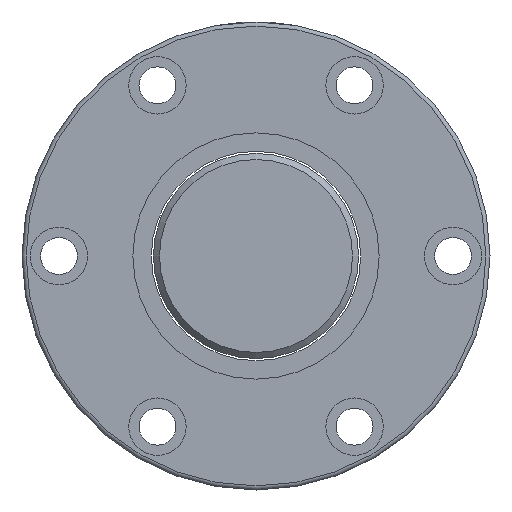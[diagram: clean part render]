
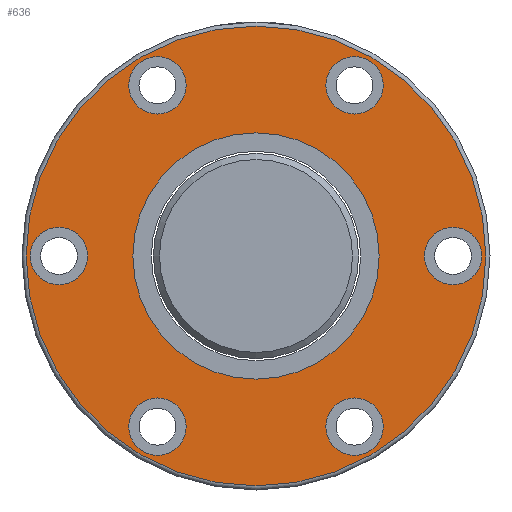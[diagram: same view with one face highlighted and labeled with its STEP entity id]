
A CAD part, left-side view. The second image highlights one B-rep face of the part: STEP entity #636.
In plain terms, the highlighted planar face has unit normal (-1, 0, 0).
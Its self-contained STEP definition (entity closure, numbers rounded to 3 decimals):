
#98=PLANE('',#754);
#181=ORIENTED_EDGE('',*,*,#244,.T.);
#182=ORIENTED_EDGE('',*,*,#274,.F.);
#183=ORIENTED_EDGE('',*,*,#267,.T.);
#184=ORIENTED_EDGE('',*,*,#263,.T.);
#185=ORIENTED_EDGE('',*,*,#259,.T.);
#186=ORIENTED_EDGE('',*,*,#255,.T.);
#187=ORIENTED_EDGE('',*,*,#251,.T.);
#188=ORIENTED_EDGE('',*,*,#247,.T.);
#244=EDGE_CURVE('',#305,#305,#356,.T.);
#247=EDGE_CURVE('',#308,#308,#359,.T.);
#251=EDGE_CURVE('',#312,#312,#363,.T.);
#255=EDGE_CURVE('',#316,#316,#367,.T.);
#259=EDGE_CURVE('',#320,#320,#371,.T.);
#263=EDGE_CURVE('',#324,#324,#375,.T.);
#267=EDGE_CURVE('',#328,#328,#379,.T.);
#274=EDGE_CURVE('',#335,#335,#386,.T.);
#305=VERTEX_POINT('',#1052);
#308=VERTEX_POINT('',#1060);
#312=VERTEX_POINT('',#1071);
#316=VERTEX_POINT('',#1082);
#320=VERTEX_POINT('',#1093);
#324=VERTEX_POINT('',#1104);
#328=VERTEX_POINT('',#1115);
#335=VERTEX_POINT('',#1135);
#356=CIRCLE('',#700,30.);
#359=CIRCLE('',#705,7.);
#363=CIRCLE('',#712,7.);
#367=CIRCLE('',#719,7.);
#371=CIRCLE('',#726,7.);
#375=CIRCLE('',#733,7.);
#379=CIRCLE('',#740,7.);
#386=CIRCLE('',#753,56.);
#466=EDGE_LOOP('',(#181));
#467=EDGE_LOOP('',(#182));
#468=EDGE_LOOP('',(#183));
#469=EDGE_LOOP('',(#184));
#470=EDGE_LOOP('',(#185));
#471=EDGE_LOOP('',(#186));
#472=EDGE_LOOP('',(#187));
#473=EDGE_LOOP('',(#188));
#569=FACE_BOUND('',#466,.T.);
#570=FACE_BOUND('',#467,.T.);
#571=FACE_BOUND('',#468,.T.);
#572=FACE_BOUND('',#469,.T.);
#573=FACE_BOUND('',#470,.T.);
#574=FACE_BOUND('',#471,.T.);
#575=FACE_BOUND('',#472,.T.);
#576=FACE_BOUND('',#473,.T.);
#636=ADVANCED_FACE('',(#569,#570,#571,#572,#573,#574,#575,#576),#98,.F.);
#700=AXIS2_PLACEMENT_3D('',#1051,#824,#825);
#705=AXIS2_PLACEMENT_3D('',#1059,#834,#835);
#712=AXIS2_PLACEMENT_3D('',#1070,#848,#849);
#719=AXIS2_PLACEMENT_3D('',#1081,#862,#863);
#726=AXIS2_PLACEMENT_3D('',#1092,#876,#877);
#733=AXIS2_PLACEMENT_3D('',#1103,#890,#891);
#740=AXIS2_PLACEMENT_3D('',#1114,#904,#905);
#753=AXIS2_PLACEMENT_3D('',#1134,#930,#931);
#754=AXIS2_PLACEMENT_3D('',#1136,#932,#933);
#824=DIRECTION('',(1.,0.,0.));
#825=DIRECTION('',(0.,0.,-1.));
#834=DIRECTION('',(1.,0.,0.));
#835=DIRECTION('',(0.,-0.866,-0.5));
#848=DIRECTION('',(1.,0.,0.));
#849=DIRECTION('',(0.,-0.866,0.5));
#862=DIRECTION('',(1.,0.,0.));
#863=DIRECTION('',(0.,0.,1.));
#876=DIRECTION('',(1.,0.,0.));
#877=DIRECTION('',(0.,0.866,0.5));
#890=DIRECTION('',(1.,0.,0.));
#891=DIRECTION('',(0.,0.866,-0.5));
#904=DIRECTION('',(1.,0.,0.));
#905=DIRECTION('',(0.,0.,-1.));
#930=DIRECTION('',(1.,0.,0.));
#931=DIRECTION('',(0.,0.,-1.));
#932=DIRECTION('',(1.,0.,0.));
#933=DIRECTION('',(0.,0.,-1.));
#1051=CARTESIAN_POINT('',(-60.,0.,0.));
#1052=CARTESIAN_POINT('',(-60.,0.,-30.));
#1059=CARTESIAN_POINT('',(-60.,-24.001,-41.57));
#1060=CARTESIAN_POINT('',(-60.,-30.063,-45.07));
#1070=CARTESIAN_POINT('',(-60.,-48.001,0.));
#1071=CARTESIAN_POINT('',(-60.,-54.063,3.5));
#1081=CARTESIAN_POINT('',(-60.,-24.,41.57));
#1082=CARTESIAN_POINT('',(-60.,-24.,48.57));
#1092=CARTESIAN_POINT('',(-60.,24.001,41.57));
#1093=CARTESIAN_POINT('',(-60.,30.063,45.07));
#1103=CARTESIAN_POINT('',(-60.,48.001,0.));
#1104=CARTESIAN_POINT('',(-60.,54.063,-3.5));
#1114=CARTESIAN_POINT('',(-60.,24.,-41.57));
#1115=CARTESIAN_POINT('',(-60.,24.,-48.57));
#1134=CARTESIAN_POINT('',(-60.,0.,0.));
#1135=CARTESIAN_POINT('',(-60.,0.,-56.));
#1136=CARTESIAN_POINT('',(-60.,30.,0.));
